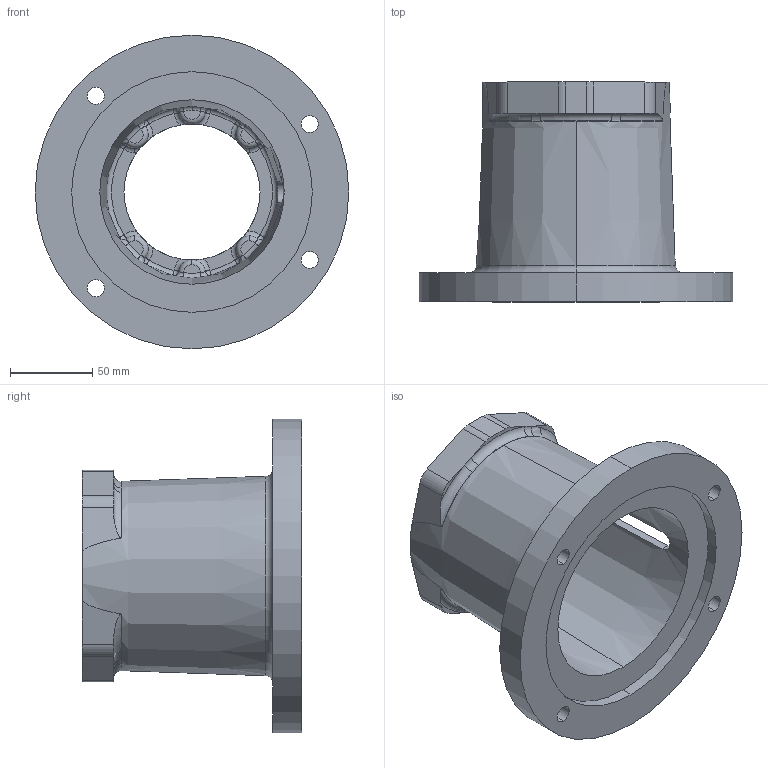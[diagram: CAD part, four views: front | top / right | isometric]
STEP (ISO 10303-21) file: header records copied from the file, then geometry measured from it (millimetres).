
FILE_DESCRIPTION (( 'STEP AP203' ), '1' );
FILE_NAME ('E575522A.STEP', '2017-06-12T20:19:33', ( 'engineering4' ), ( '' ), 'SwSTEP 2.0', 'SolidWorks 2015', '' );
FILE_SCHEMA (( 'CONFIG_CONTROL_DESIGN' ));
Length unit declared in the file: inch
Products named in the file (1): E575522A
Bounding box: 190.5 x 133.35 x 190.5 mm (x, y, z)
Volume: 534156.1 mm3; surface area: 147371.7 mm2
Topology: 1 solids, 1 shells, 207 faces, 524 edges, 303 vertices
Faces by surface type: torus 56, cylinder 43, plane 34, bspline 28, sphere 24, cone 22
Entity records: 8282 total; most frequent: CARTESIAN_POINT 3392, DIRECTION 1079, ORIENTED_EDGE 1000, EDGE_CURVE 500, AXIS2_PLACEMENT_3D 494, CIRCLE 314, VERTEX_POINT 303, EDGE_LOOP 227
